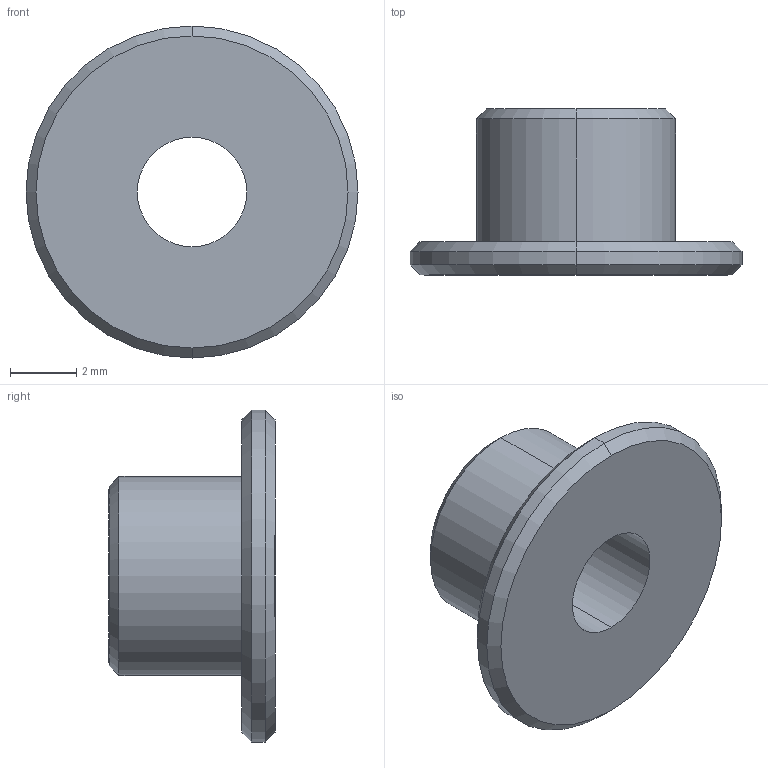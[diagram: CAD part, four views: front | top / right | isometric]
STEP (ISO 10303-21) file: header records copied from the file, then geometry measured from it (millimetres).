
FILE_DESCRIPTION (( 'STEP AP214' ), '1' );
FILE_NAME ('覃誹蹟譫.STEP', '2026-10-21T02:06:47', ( '' ), ( '' ), 'SwSTEP 2.0', 'SolidWorks 2024', '' );
FILE_SCHEMA (( 'AUTOMOTIVE_DESIGN' ));
Length unit declared in the file: millimetre
Products named in the file (1): 调节螺母
Bounding box: 10 x 5 x 10 mm (x, y, z)
Volume: 144.5 mm3; surface area: 281.8 mm2
Topology: 1 solids, 1 shells, 17 faces, 34 edges, 20 vertices
Faces by surface type: cone 8, cylinder 6, plane 3
Entity records: 471 total; most frequent: DIRECTION 90, CARTESIAN_POINT 72, ORIENTED_EDGE 68, AXIS2_PLACEMENT_3D 38, EDGE_CURVE 34, CIRCLE 20, VERTEX_POINT 20, EDGE_LOOP 20
